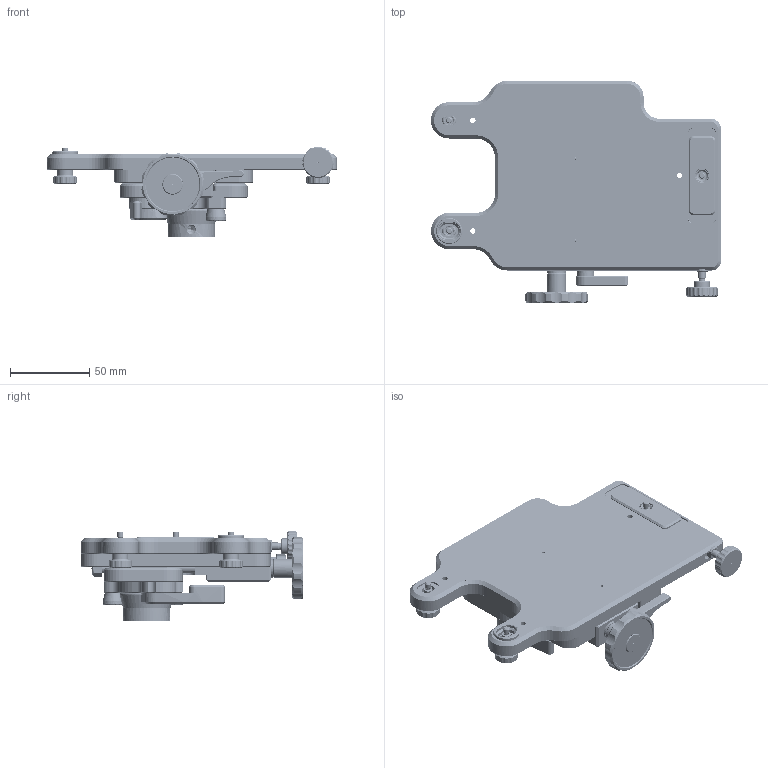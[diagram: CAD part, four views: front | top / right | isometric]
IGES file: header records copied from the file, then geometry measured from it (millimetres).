
Global section: file name: Y:\_LCPD Drawings\13.1 Lightweight Models\9908\TRIPOD STAGE\LA_9908_0700_02_A.igs; native system: NX V7.5; preprocessor: SIEMENS PLM Software NX 7.5; date: 20110803.153030; units: millimetre
Bounding box: 183.48 x 140.63 x 57.47 mm (x, y, z)
Surface area: 125727.5 mm2 (no closed solid volume)
Topology: 0 solids, 0 shells, 2021 faces, 14285 edges, 13708 vertices
Faces by surface type: bspline 2021
